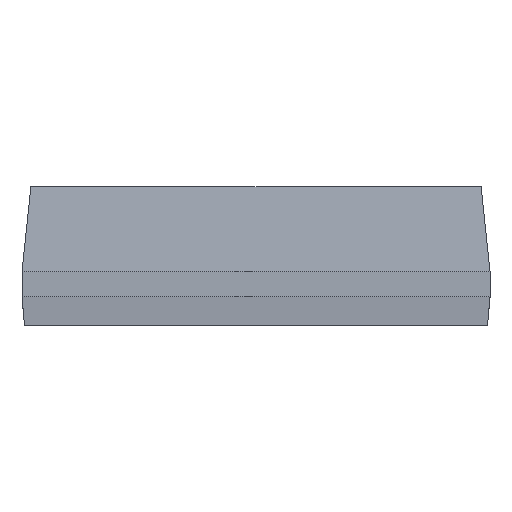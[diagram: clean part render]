
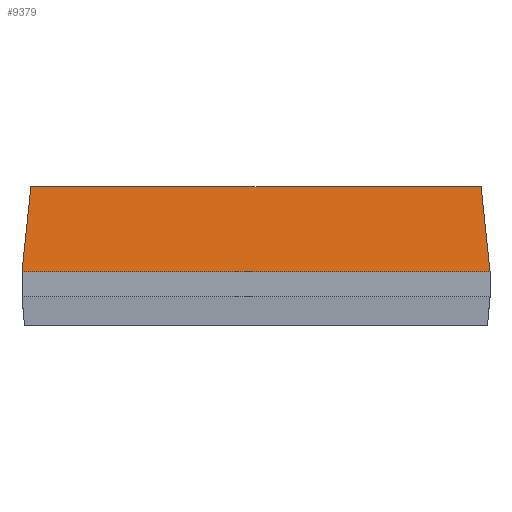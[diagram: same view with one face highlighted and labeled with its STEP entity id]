
A CAD part, top view. The second image highlights one B-rep face of the part: STEP entity #9379.
In plain terms, the highlighted planar face has unit normal (0, 0.104, 0.995).
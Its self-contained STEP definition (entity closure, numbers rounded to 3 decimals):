
#54=DIRECTION('',(1.,0.,0.));
#55=VECTOR('',#54,7.146);
#56=CARTESIAN_POINT('',(-3.573,2.2,1.323));
#57=LINE('',#56,#55);
#76=DIRECTION('',(-0.104,0.989,-0.104));
#77=VECTOR('',#76,1.365);
#78=CARTESIAN_POINT('',(3.715,0.85,1.465));
#79=LINE('',#78,#77);
#2100=DIRECTION('',(1.,0.,0.));
#2101=VECTOR('',#2100,7.43);
#2102=CARTESIAN_POINT('',(-3.715,0.85,1.465));
#2103=LINE('',#2102,#2101);
#2104=DIRECTION('',(0.104,0.989,-0.104));
#2105=VECTOR('',#2104,1.365);
#2106=CARTESIAN_POINT('',(-3.715,0.85,1.465));
#2107=LINE('',#2106,#2105);
#8090=CARTESIAN_POINT('',(-3.573,2.2,1.323));
#8091=VERTEX_POINT('',#8090);
#8092=CARTESIAN_POINT('',(3.573,2.2,1.323));
#8093=VERTEX_POINT('',#8092);
#8106=CARTESIAN_POINT('',(3.715,0.85,1.465));
#8107=VERTEX_POINT('',#8106);
#8108=CARTESIAN_POINT('',(-3.715,0.85,1.465));
#8109=VERTEX_POINT('',#8108);
#9368=CARTESIAN_POINT('',(-4.814,0.85,1.465));
#9369=DIRECTION('',(0.,0.105,0.995));
#9370=DIRECTION('',(1.,0.,0.));
#9371=AXIS2_PLACEMENT_3D('',#9368,#9369,#9370);
#9372=PLANE('',#9371);
#9373=ORIENTED_EDGE('',*,*,#9362,.F.);
#9374=ORIENTED_EDGE('',*,*,#8202,.T.);
#9375=ORIENTED_EDGE('',*,*,#8215,.T.);
#9376=ORIENTED_EDGE('',*,*,#8234,.F.);
#9377=EDGE_LOOP('',(#9373,#9374,#9375,#9376));
#9378=FACE_OUTER_BOUND('',#9377,.F.);
#8202=EDGE_CURVE('',#8109,#8091,#2107,.T.);
#8215=EDGE_CURVE('',#8091,#8093,#57,.T.);
#8234=EDGE_CURVE('',#8107,#8093,#79,.T.);
#9362=EDGE_CURVE('',#8109,#8107,#2103,.T.);
#9379=ADVANCED_FACE('',(#9378),#9372,.T.);
